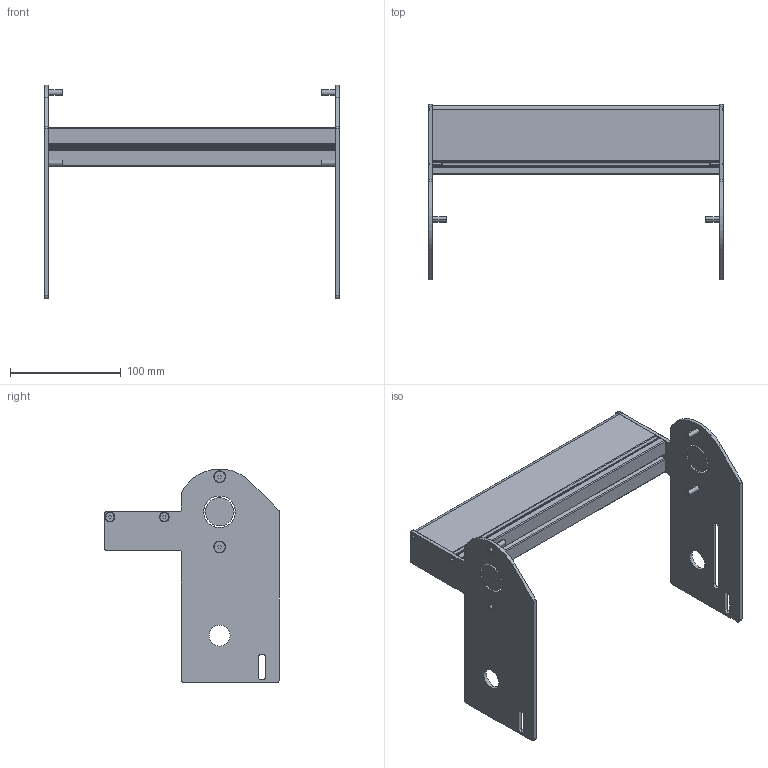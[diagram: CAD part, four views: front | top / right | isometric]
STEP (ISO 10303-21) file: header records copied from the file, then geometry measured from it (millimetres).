
FILE_DESCRIPTION((''),'2;1');
FILE_NAME('350712-10_ASM','2023-03-22T',('jenni.wallner'),(''),'PRO/ENGINEER BY PARAMETRIC TECHNOLOGY CORPORATION, 2012420','PRO/ENGINEER BY PARAMETRIC TECHNOLOGY CORPORATION, 2012420','');
FILE_SCHEMA(('CONFIG_CONTROL_DESIGN'));
Length unit declared in the file: inch
Products named in the file (6): 350669-10; 350667; 350668; 930412M; 930516M; 350712-10_ASM
Assembly tree (11 placements, depth 2):
  350712-10_ASM
    350669-10
    350667
    350668
    930412M  x4
    930516M  x4
Bounding box: 266.34 x 158.09 x 193.27 mm (x, y, z)
Volume: 318850.5 mm3; surface area: 212807.2 mm2
Topology: 11 solids, 11 shells, 334 faces, 872 edges, 568 vertices
Faces by surface type: plane 150, cylinder 136, cone 48
Entity records: 7775 total; most frequent: DIRECTION 1396, CARTESIAN_POINT 1323, ORIENTED_EDGE 1288, EDGE_CURVE 644, AXIS2_PLACEMENT_3D 505, VERTEX_POINT 424, VECTOR 386, LINE 386
